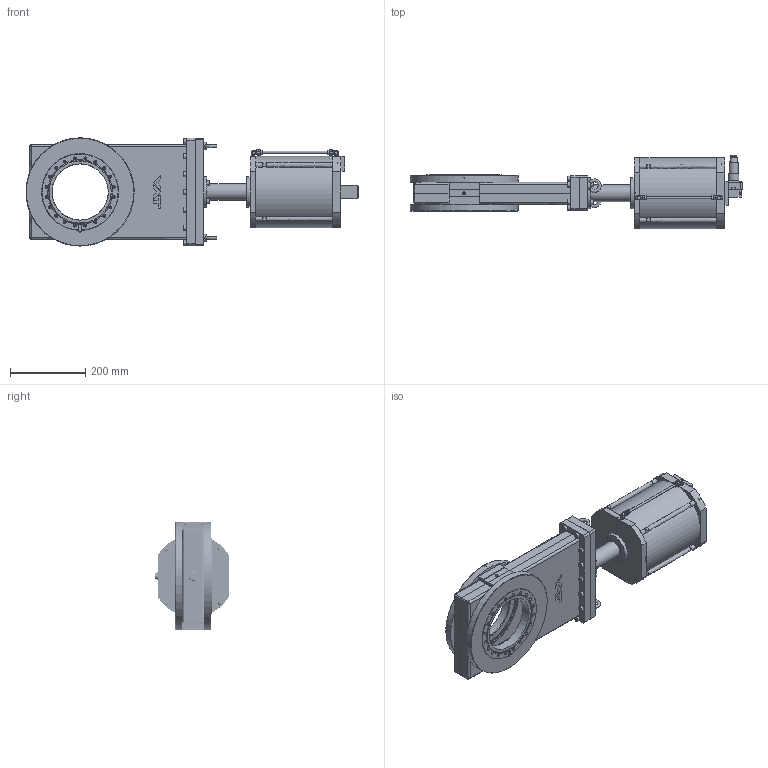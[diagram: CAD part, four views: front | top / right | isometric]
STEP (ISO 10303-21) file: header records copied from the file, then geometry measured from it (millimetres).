
FILE_DESCRIPTION((''),'2;1');
FILE_NAME('C:\TEMP\IDEAS\251428.stp','2007-07-03T10:11:15',('User'),( 'SDRC'),'I-DEAS Master Series 9','UNIX','Yes');
FILE_SCHEMA(('CONFIG_CONTROL_DESIGN'));
Length unit declared in the file: millimetre
Assembly tree (64 placements, depth 0):
Bounding box: 884.83 x 197 x 288.25 mm (x, y, z)
Volume: 5708412.6 mm3; surface area: 1501191.8 mm2
Topology: 120 solids, 120 shells, 1933 faces, 4264 edges, 2839 vertices
Faces by surface type: bspline 1933
Entity records: 45858 total; most frequent: CARTESIAN_POINT 24882, ORIENTED_EDGE 5088, EDGE_CURVE 2544, VERTEX_POINT 1672, EDGE_LOOP 1558, FACE_OUTER_BOUND 1176, ADVANCED_FACE 1176, QUASI_UNIFORM_CURVE 938
